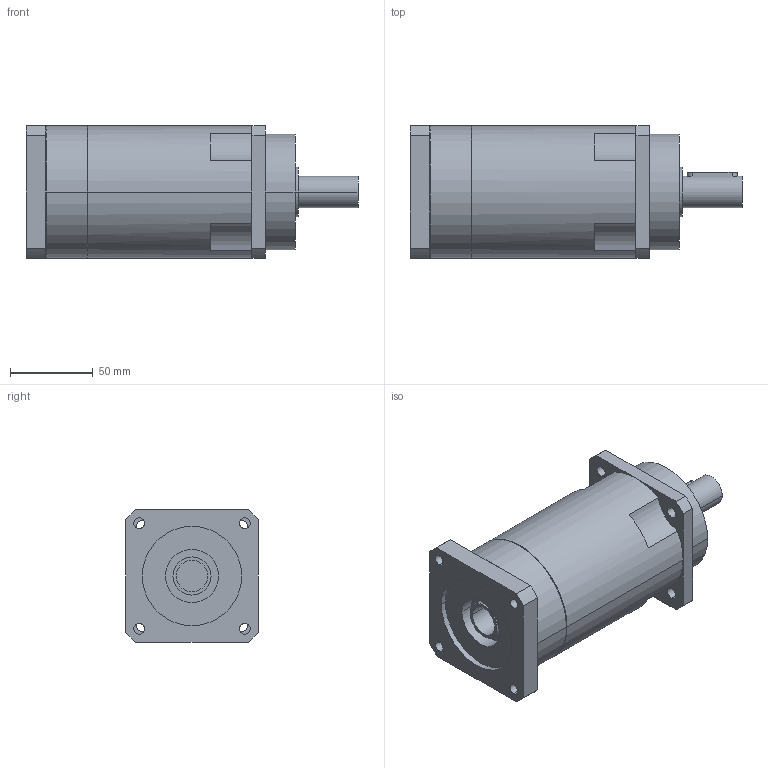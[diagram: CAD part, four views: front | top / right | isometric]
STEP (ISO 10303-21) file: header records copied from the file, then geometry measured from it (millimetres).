
FILE_DESCRIPTION(('CoCreate Modeling STEP Export'),'2;1');
FILE_NAME('GPR100_ig-48-64-80-100-120-144-180-216_19_B5_19_P19.stp','2014-08-26T11:56:22',(''),(''),'CoCreate Modeling STEP processor for AP214 (Solid Model)','CoCreate Modeling 16.00C 25-Feb-2009 (C) Parametric Technology GmbH','');
FILE_SCHEMA(('AUTOMOTIVE_DESIGN { 1 0 10303 214 1 1 1 1 }'));
Length unit declared in the file: millimetre
Products named in the file (2): GPR100_ig-48-64-80-100-120-144-180-216_19_B5_19_P19
Assembly tree (1 placements, depth 2):
  GPR100_ig-48-64-80-100-120-144-180-216_19_B5_19_P19
    GPR100_ig-48-64-80-100-120-144-180-216_19_B5_19_P19
Bounding box: 200.4 x 80 x 80 mm (x, y, z)
Volume: 795923.8 mm3; surface area: 65855.1 mm2
Topology: 1 solids, 1 shells, 98 faces, 282 edges, 194 vertices
Faces by surface type: cylinder 58, plane 34, cone 6
Entity records: 2936 total; most frequent: CARTESIAN_POINT 569, ORIENTED_EDGE 560, DIRECTION 416, EDGE_CURVE 280, VERTEX_POINT 194, AXIS2_PLACEMENT_3D 157, EDGE_LOOP 124, VECTOR 102
